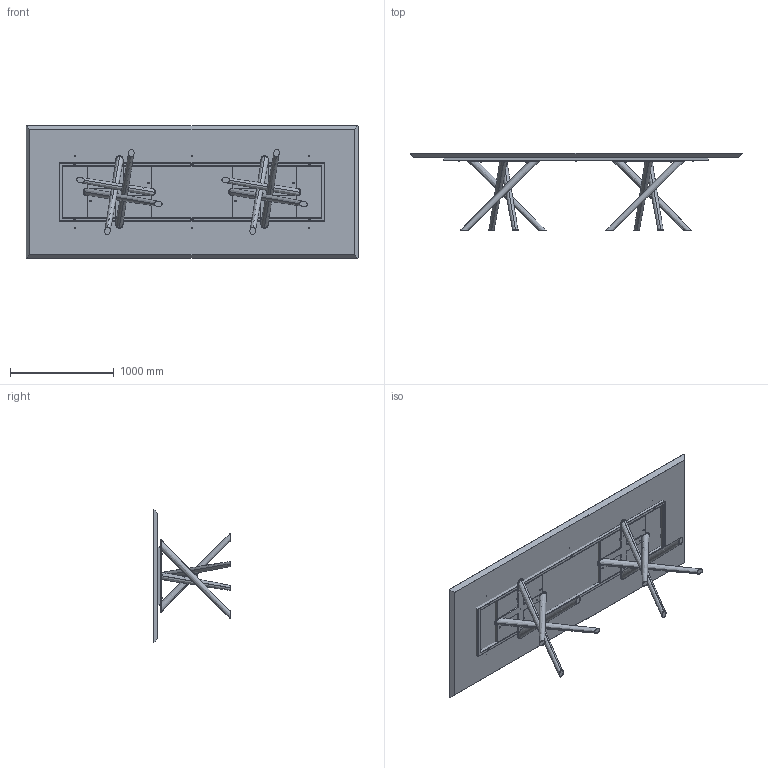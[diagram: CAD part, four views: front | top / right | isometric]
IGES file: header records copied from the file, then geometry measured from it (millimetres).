
Start section: SolidWorks IGES file using analytic representation for surfaces
Global section: file name: Y:\eforma\TECNICO\SOLIDWORKS\E-FORMA\1-TAVOLI\BALY\02 parts\BA28W.IGS; native system: SolidWorks 2022; preprocessor: SolidWorks 2022; author: eforma.tech; date: 240808.075509; units: millimetre
Bounding box: 3200 x 743 x 1280 mm (x, y, z)
Volume: 159611744.1 mm3; surface area: 14770066.7 mm2
Topology: 48 solids, 48 shells, 1214 faces, 2786 edges, 1636 vertices
Faces by surface type: revolution 700, plane 498, bspline 16
